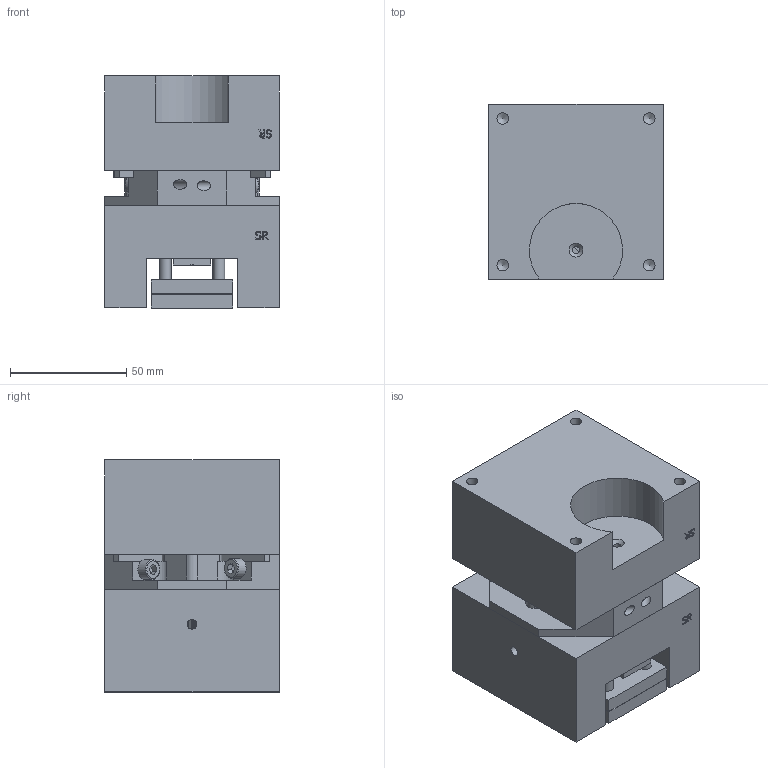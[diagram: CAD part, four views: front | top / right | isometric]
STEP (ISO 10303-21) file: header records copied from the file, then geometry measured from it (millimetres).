
FILE_DESCRIPTION((''),'2;1');
FILE_NAME('K:\sts0810\Thèmes 2010\Dynadent\OUTILLAGES\DETAILLE\MOULE CORPS\Version STEP\MOULE VERSION FINALE.stp','2011-01-14T11:30:56',('jeannph'),(''),'Autodesk Inventor 2011','Autodesk Inventor 2011','');
FILE_SCHEMA(('AUTOMOTIVE_DESIGN { 1 0 10303 214 1 1 1 1 }'));
Length unit declared in the file: millimetre
Products named in the file (19): _MOULE VERSION FINALE_; contre plaque éjection; plaque d'ejection; bloc mobile plaque_V2; plaque dévetisseuse_V2; goupille diam 5; Tiroir 1 _ 2 rainures; Tiroir 1 _ noyau cylindre indexé diam 1,2; Tiroir 1 _ noyau cylindrique diam1; 527-5-8; Noyau intérieur corps; arrache carotte; plaque de choc; 644-5-100; bloc fixe plaque; CORPS + retrait; Tiroir 1 _ dents; base tiroir denteeipt; secteur dentee
Assembly tree (25 placements, depth 3):
  _MOULE VERSION FINALE_
    contre plaque éjection
    bloc mobile plaque_V2
    plaque dévetisseuse_V2
    goupille diam 5  x3
    Tiroir 1 _ 2 rainures
    Tiroir 1 _ noyau cylindre indexé diam 1,2
    Tiroir 1 _ noyau cylindrique diam1
    527-5-8  x4
    Noyau intérieur corps
    arrache carotte
    plaque de choc
    644-5-100  x4
    bloc fixe plaque
    CORPS + retrait
    Tiroir 1 _ dents
      base tiroir denteeipt
      secteur dentee
  plaque d'ejection
Bounding box: 75 x 75 x 99.7 mm (x, y, z)
Volume: 474779.7 mm3; surface area: 99369.7 mm2
Topology: 25 solids, 25 shells, 740 faces, 1911 edges, 1259 vertices
Faces by surface type: plane 373, cylinder 197, bspline 104, cone 50, torus 14, sphere 2
Full cylindrical faces by diameter (mm): 1.018 x4, 1.206 x2, 1.4 x2, 2.459 x4, 3 x1, 3.2 x4, 3.242 x3, 4 x2, 4.134 x7, 4.5 x3, 4.917 x8, 4.979 x3, 5 x17, 5.006 x8, 5.2 x4, 7 x4, 8 x1, 8.5 x4, 9 x1, 10 x4, 10.4 x4
Entity records: 21758 total; most frequent: CARTESIAN_POINT 5745, ORIENTED_EDGE 3152, DIRECTION 2848, EDGE_CURVE 1576, VERTEX_POINT 1082, AXIS2_PLACEMENT_3D 966, VECTOR 916, LINE 916
